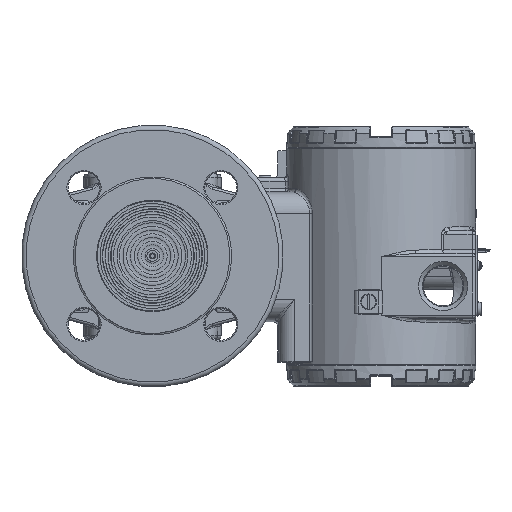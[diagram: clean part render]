
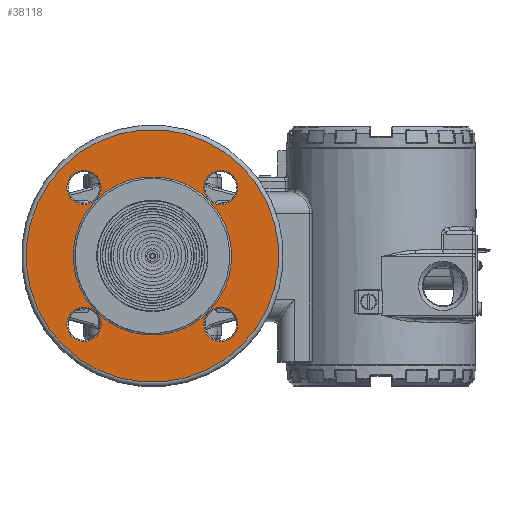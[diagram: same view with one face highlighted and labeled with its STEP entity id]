
A CAD part, top view. The second image highlights one B-rep face of the part: STEP entity #38118.
In plain terms, the highlighted planar face has unit normal (0, 0, 1) as drawn and (-1, 0, 0) by its records, which use the part's own axes.
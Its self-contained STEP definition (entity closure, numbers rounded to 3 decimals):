
#736=FACE_BOUND('',#6475,.T.);
#737=FACE_BOUND('',#6476,.T.);
#738=FACE_BOUND('',#6477,.T.);
#739=FACE_BOUND('',#6478,.T.);
#740=FACE_BOUND('',#6479,.T.);
#2679=PLANE('',#42360);
#3877=FACE_OUTER_BOUND('',#6474,.T.);
#6474=EDGE_LOOP('',(#29176,#29177));
#6475=EDGE_LOOP('',(#29178));
#6476=EDGE_LOOP('',(#29179));
#6477=EDGE_LOOP('',(#29180,#29181));
#6478=EDGE_LOOP('',(#29182));
#6479=EDGE_LOOP('',(#29183));
#12199=CIRCLE('',#42359,7.5);
#12200=CIRCLE('',#42361,55.5);
#12201=CIRCLE('',#42362,55.5);
#12202=CIRCLE('',#42363,7.5);
#12203=CIRCLE('',#42364,7.5);
#12204=CIRCLE('',#42365,34.8);
#12205=CIRCLE('',#42366,34.8);
#12206=CIRCLE('',#42367,7.5);
#16624=VERTEX_POINT('',#68014);
#16625=VERTEX_POINT('',#68018);
#16626=VERTEX_POINT('',#68019);
#16627=VERTEX_POINT('',#68022);
#16628=VERTEX_POINT('',#68024);
#16629=VERTEX_POINT('',#68026);
#16630=VERTEX_POINT('',#68027);
#16631=VERTEX_POINT('',#68030);
#21037=EDGE_CURVE('',#16624,#16624,#12199,.T.);
#21039=EDGE_CURVE('',#16625,#16626,#12200,.T.);
#21040=EDGE_CURVE('',#16626,#16625,#12201,.T.);
#21041=EDGE_CURVE('',#16627,#16627,#12202,.T.);
#21042=EDGE_CURVE('',#16628,#16628,#12203,.T.);
#21043=EDGE_CURVE('',#16629,#16630,#12204,.T.);
#21044=EDGE_CURVE('',#16630,#16629,#12205,.T.);
#21045=EDGE_CURVE('',#16631,#16631,#12206,.T.);
#29176=ORIENTED_EDGE('',*,*,#21039,.F.);
#29177=ORIENTED_EDGE('',*,*,#21040,.F.);
#29178=ORIENTED_EDGE('',*,*,#21041,.F.);
#29179=ORIENTED_EDGE('',*,*,#21042,.F.);
#29180=ORIENTED_EDGE('',*,*,#21043,.T.);
#29181=ORIENTED_EDGE('',*,*,#21044,.T.);
#29182=ORIENTED_EDGE('',*,*,#21045,.F.);
#29183=ORIENTED_EDGE('',*,*,#21037,.F.);
#38118=ADVANCED_FACE('',(#3877,#736,#737,#738,#739,#740),#2679,.T.);
#42359=AXIS2_PLACEMENT_3D('',#68015,#50177,#50178);
#42360=AXIS2_PLACEMENT_3D('',#68017,#50180,#50181);
#42361=AXIS2_PLACEMENT_3D('',#68020,#50182,#50183);
#42362=AXIS2_PLACEMENT_3D('',#68021,#50184,#50185);
#42363=AXIS2_PLACEMENT_3D('',#68023,#50186,#50187);
#42364=AXIS2_PLACEMENT_3D('',#68025,#50188,#50189);
#42365=AXIS2_PLACEMENT_3D('',#68028,#50190,#50191);
#42366=AXIS2_PLACEMENT_3D('',#68029,#50192,#50193);
#42367=AXIS2_PLACEMENT_3D('',#68031,#50194,#50195);
#50177=DIRECTION('center_axis',(-1.,0.,0.));
#50178=DIRECTION('ref_axis',(0.,-1.,0.));
#50180=DIRECTION('center_axis',(-1.,0.,0.));
#50181=DIRECTION('ref_axis',(0.,0.,1.));
#50182=DIRECTION('center_axis',(1.,0.,0.));
#50183=DIRECTION('ref_axis',(0.,1.,0.));
#50184=DIRECTION('center_axis',(1.,0.,0.));
#50185=DIRECTION('ref_axis',(0.,1.,0.));
#50186=DIRECTION('center_axis',(-1.,0.,0.));
#50187=DIRECTION('ref_axis',(0.,0.,1.));
#50188=DIRECTION('center_axis',(-1.,0.,0.));
#50189=DIRECTION('ref_axis',(0.,0.,-1.));
#50190=DIRECTION('center_axis',(1.,0.,0.));
#50191=DIRECTION('ref_axis',(0.,1.,0.));
#50192=DIRECTION('center_axis',(1.,0.,0.));
#50193=DIRECTION('ref_axis',(0.,1.,0.));
#50194=DIRECTION('center_axis',(-1.,0.,0.));
#50195=DIRECTION('ref_axis',(0.,1.,0.));
#68014=CARTESIAN_POINT('',(2.,50.,0.));
#68015=CARTESIAN_POINT('Origin',(2.,42.5,0.));
#68017=CARTESIAN_POINT('Origin',(2.,45.15,0.));
#68018=CARTESIAN_POINT('',(2.,55.5,0.));
#68019=CARTESIAN_POINT('',(2.,0.,55.5));
#68020=CARTESIAN_POINT('Origin',(2.,0.,0.));
#68021=CARTESIAN_POINT('Origin',(2.,0.,0.));
#68022=CARTESIAN_POINT('',(2.,0.,-50.));
#68023=CARTESIAN_POINT('Origin',(2.,0.,-42.5));
#68024=CARTESIAN_POINT('',(2.,0.,50.));
#68025=CARTESIAN_POINT('Origin',(2.,0.,42.5));
#68026=CARTESIAN_POINT('',(2.,34.8,0.));
#68027=CARTESIAN_POINT('',(2.,0.,34.8));
#68028=CARTESIAN_POINT('Origin',(2.,0.,0.));
#68029=CARTESIAN_POINT('Origin',(2.,0.,0.));
#68030=CARTESIAN_POINT('',(2.,-50.,0.));
#68031=CARTESIAN_POINT('Origin',(2.,-42.5,0.));
